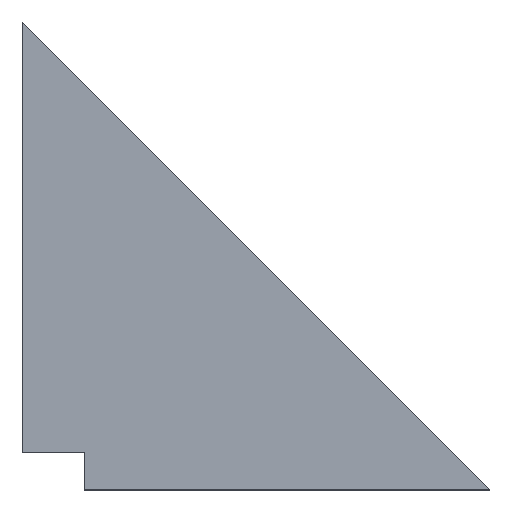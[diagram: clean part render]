
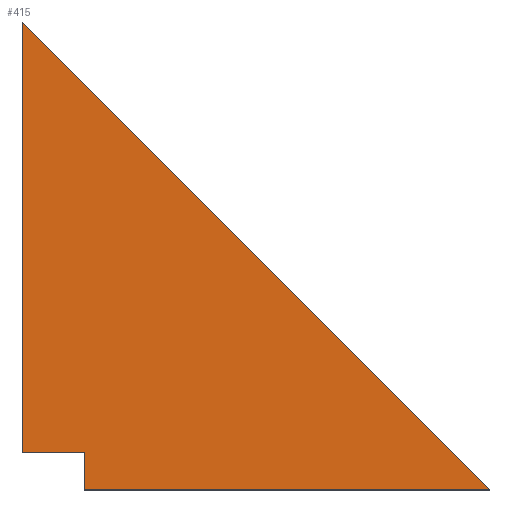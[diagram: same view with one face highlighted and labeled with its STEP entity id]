
A CAD part, top view. The second image highlights one B-rep face of the part: STEP entity #415.
In plain terms, the highlighted planar face has unit normal (0, 0, 1).
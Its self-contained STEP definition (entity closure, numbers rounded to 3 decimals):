
#24 = VERTEX_POINT('',#25);
#25 = CARTESIAN_POINT('',(0.,12.,6.));
#32 = PLANE('',#33);
#33 = AXIS2_PLACEMENT_3D('',#34,#35,#36);
#34 = CARTESIAN_POINT('',(0.,12.,0.));
#35 = DIRECTION('',(0.,1.,0.));
#36 = DIRECTION('',(1.,0.,0.));
#44 = PLANE('',#45);
#45 = AXIS2_PLACEMENT_3D('',#46,#47,#48);
#46 = CARTESIAN_POINT('',(0.,150.,0.));
#47 = DIRECTION('',(1.,0.,-0.));
#48 = DIRECTION('',(0.,-1.,0.));
#56 = EDGE_CURVE('',#24,#57,#59,.T.);
#57 = VERTEX_POINT('',#58);
#58 = CARTESIAN_POINT('',(20.,12.,6.));
#59 = SURFACE_CURVE('',#60,(#64,#71),.PCURVE_S1.);
#60 = LINE('',#61,#62);
#61 = CARTESIAN_POINT('',(0.,12.,6.));
#62 = VECTOR('',#63,1.);
#63 = DIRECTION('',(1.,0.,0.));
#64 = PCURVE('',#32,#65);
#65 = DEFINITIONAL_REPRESENTATION('',(#66),#70);
#66 = LINE('',#67,#68);
#67 = CARTESIAN_POINT('',(0.,-6.));
#68 = VECTOR('',#69,1.);
#69 = DIRECTION('',(1.,0.));
#70 = ( GEOMETRIC_REPRESENTATION_CONTEXT(2) 
PARAMETRIC_REPRESENTATION_CONTEXT() REPRESENTATION_CONTEXT('2D SPACE',''
  ) );
#71 = PCURVE('',#72,#77);
#72 = PLANE('',#73);
#73 = AXIS2_PLACEMENT_3D('',#74,#75,#76);
#74 = CARTESIAN_POINT('',(53.502,53.502,6.));
#75 = DIRECTION('',(0.,0.,1.));
#76 = DIRECTION('',(1.,0.,-0.));
#77 = DEFINITIONAL_REPRESENTATION('',(#78),#82);
#78 = LINE('',#79,#80);
#79 = CARTESIAN_POINT('',(-53.502,-41.502));
#80 = VECTOR('',#81,1.);
#81 = DIRECTION('',(1.,0.));
#82 = ( GEOMETRIC_REPRESENTATION_CONTEXT(2) 
PARAMETRIC_REPRESENTATION_CONTEXT() REPRESENTATION_CONTEXT('2D SPACE',''
  ) );
#100 = PLANE('',#101);
#101 = AXIS2_PLACEMENT_3D('',#102,#103,#104);
#102 = CARTESIAN_POINT('',(20.,12.,0.));
#103 = DIRECTION('',(1.,0.,-0.));
#104 = DIRECTION('',(0.,-1.,0.));
#142 = EDGE_CURVE('',#57,#143,#145,.T.);
#143 = VERTEX_POINT('',#144);
#144 = CARTESIAN_POINT('',(20.,0.,6.));
#145 = SURFACE_CURVE('',#146,(#150,#157),.PCURVE_S1.);
#146 = LINE('',#147,#148);
#147 = CARTESIAN_POINT('',(20.,12.,6.));
#148 = VECTOR('',#149,1.);
#149 = DIRECTION('',(0.,-1.,0.));
#150 = PCURVE('',#100,#151);
#151 = DEFINITIONAL_REPRESENTATION('',(#152),#156);
#152 = LINE('',#153,#154);
#153 = CARTESIAN_POINT('',(0.,-6.));
#154 = VECTOR('',#155,1.);
#155 = DIRECTION('',(1.,0.));
#156 = ( GEOMETRIC_REPRESENTATION_CONTEXT(2) 
PARAMETRIC_REPRESENTATION_CONTEXT() REPRESENTATION_CONTEXT('2D SPACE',''
  ) );
#157 = PCURVE('',#72,#158);
#158 = DEFINITIONAL_REPRESENTATION('',(#159),#163);
#159 = LINE('',#160,#161);
#160 = CARTESIAN_POINT('',(-33.502,-41.502));
#161 = VECTOR('',#162,1.);
#162 = DIRECTION('',(0.,-1.));
#163 = ( GEOMETRIC_REPRESENTATION_CONTEXT(2) 
PARAMETRIC_REPRESENTATION_CONTEXT() REPRESENTATION_CONTEXT('2D SPACE',''
  ) );
#181 = PLANE('',#182);
#182 = AXIS2_PLACEMENT_3D('',#183,#184,#185);
#183 = CARTESIAN_POINT('',(20.,0.,0.));
#184 = DIRECTION('',(0.,1.,0.));
#185 = DIRECTION('',(1.,0.,0.));
#218 = EDGE_CURVE('',#143,#219,#221,.T.);
#219 = VERTEX_POINT('',#220);
#220 = CARTESIAN_POINT('',(150.,0.,6.));
#221 = SURFACE_CURVE('',#222,(#226,#233),.PCURVE_S1.);
#222 = LINE('',#223,#224);
#223 = CARTESIAN_POINT('',(20.,0.,6.));
#224 = VECTOR('',#225,1.);
#225 = DIRECTION('',(1.,0.,0.));
#226 = PCURVE('',#181,#227);
#227 = DEFINITIONAL_REPRESENTATION('',(#228),#232);
#228 = LINE('',#229,#230);
#229 = CARTESIAN_POINT('',(0.,-6.));
#230 = VECTOR('',#231,1.);
#231 = DIRECTION('',(1.,0.));
#232 = ( GEOMETRIC_REPRESENTATION_CONTEXT(2) 
PARAMETRIC_REPRESENTATION_CONTEXT() REPRESENTATION_CONTEXT('2D SPACE',''
  ) );
#233 = PCURVE('',#72,#234);
#234 = DEFINITIONAL_REPRESENTATION('',(#235),#239);
#235 = LINE('',#236,#237);
#236 = CARTESIAN_POINT('',(-33.502,-53.502));
#237 = VECTOR('',#238,1.);
#238 = DIRECTION('',(1.,0.));
#239 = ( GEOMETRIC_REPRESENTATION_CONTEXT(2) 
PARAMETRIC_REPRESENTATION_CONTEXT() REPRESENTATION_CONTEXT('2D SPACE',''
  ) );
#257 = PLANE('',#258);
#258 = AXIS2_PLACEMENT_3D('',#259,#260,#261);
#259 = CARTESIAN_POINT('',(150.,0.,0.));
#260 = DIRECTION('',(-0.707,-0.707,0.));
#261 = DIRECTION('',(-0.707,0.707,0.));
#294 = EDGE_CURVE('',#219,#295,#297,.T.);
#295 = VERTEX_POINT('',#296);
#296 = CARTESIAN_POINT('',(0.,150.,6.));
#297 = SURFACE_CURVE('',#298,(#302,#309),.PCURVE_S1.);
#298 = LINE('',#299,#300);
#299 = CARTESIAN_POINT('',(150.,0.,6.));
#300 = VECTOR('',#301,1.);
#301 = DIRECTION('',(-0.707,0.707,0.));
#302 = PCURVE('',#257,#303);
#303 = DEFINITIONAL_REPRESENTATION('',(#304),#308);
#304 = LINE('',#305,#306);
#305 = CARTESIAN_POINT('',(0.,-6.));
#306 = VECTOR('',#307,1.);
#307 = DIRECTION('',(1.,0.));
#308 = ( GEOMETRIC_REPRESENTATION_CONTEXT(2) 
PARAMETRIC_REPRESENTATION_CONTEXT() REPRESENTATION_CONTEXT('2D SPACE',''
  ) );
#309 = PCURVE('',#72,#310);
#310 = DEFINITIONAL_REPRESENTATION('',(#311),#315);
#311 = LINE('',#312,#313);
#312 = CARTESIAN_POINT('',(96.498,-53.502));
#313 = VECTOR('',#314,1.);
#314 = DIRECTION('',(-0.707,0.707));
#315 = ( GEOMETRIC_REPRESENTATION_CONTEXT(2) 
PARAMETRIC_REPRESENTATION_CONTEXT() REPRESENTATION_CONTEXT('2D SPACE',''
  ) );
#365 = EDGE_CURVE('',#295,#24,#366,.T.);
#366 = SURFACE_CURVE('',#367,(#371,#378),.PCURVE_S1.);
#367 = LINE('',#368,#369);
#368 = CARTESIAN_POINT('',(0.,150.,6.));
#369 = VECTOR('',#370,1.);
#370 = DIRECTION('',(0.,-1.,0.));
#371 = PCURVE('',#44,#372);
#372 = DEFINITIONAL_REPRESENTATION('',(#373),#377);
#373 = LINE('',#374,#375);
#374 = CARTESIAN_POINT('',(0.,-6.));
#375 = VECTOR('',#376,1.);
#376 = DIRECTION('',(1.,0.));
#377 = ( GEOMETRIC_REPRESENTATION_CONTEXT(2) 
PARAMETRIC_REPRESENTATION_CONTEXT() REPRESENTATION_CONTEXT('2D SPACE',''
  ) );
#378 = PCURVE('',#72,#379);
#379 = DEFINITIONAL_REPRESENTATION('',(#380),#384);
#380 = LINE('',#381,#382);
#381 = CARTESIAN_POINT('',(-53.502,96.498));
#382 = VECTOR('',#383,1.);
#383 = DIRECTION('',(0.,-1.));
#384 = ( GEOMETRIC_REPRESENTATION_CONTEXT(2) 
PARAMETRIC_REPRESENTATION_CONTEXT() REPRESENTATION_CONTEXT('2D SPACE',''
  ) );
#415 = ADVANCED_FACE('',(#416),#72,.T.);
#416 = FACE_BOUND('',#417,.T.);
#417 = EDGE_LOOP('',(#418,#419,#420,#421,#422));
#418 = ORIENTED_EDGE('',*,*,#56,.T.);
#419 = ORIENTED_EDGE('',*,*,#142,.T.);
#420 = ORIENTED_EDGE('',*,*,#218,.T.);
#421 = ORIENTED_EDGE('',*,*,#294,.T.);
#422 = ORIENTED_EDGE('',*,*,#365,.T.);
